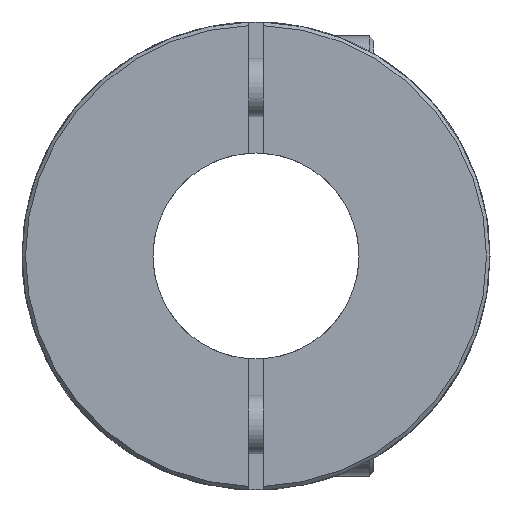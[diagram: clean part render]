
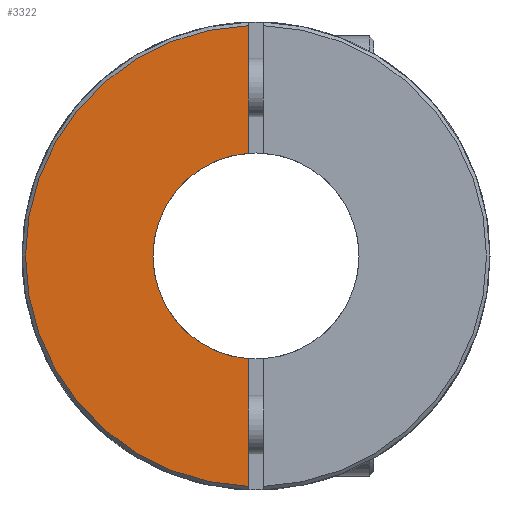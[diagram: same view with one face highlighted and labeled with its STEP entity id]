
A CAD part, front view. The second image highlights one B-rep face of the part: STEP entity #3322.
In plain terms, the highlighted planar face has unit normal (0, -1, 0).
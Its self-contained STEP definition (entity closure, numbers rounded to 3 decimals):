
#1=DIRECTION('',(0.,0.,-1.));
#2=VECTOR('',#1,8.67);
#3=CARTESIAN_POINT('',(-0.5,-22.25,15.652));
#4=LINE('',#3,#2);
#5=DIRECTION('',(0.,0.,-1.));
#6=VECTOR('',#5,8.67);
#7=CARTESIAN_POINT('',(-0.5,-22.25,-6.982));
#8=LINE('',#7,#6);
#72=CARTESIAN_POINT('',(0.,-22.25,0.));
#73=DIRECTION('',(0.,1.,0.));
#74=DIRECTION('',(-0.071,0.,-0.997));
#75=AXIS2_PLACEMENT_3D('',#72,#73,#74);
#2481=CARTESIAN_POINT('',(0.,-22.25,0.));
#2482=DIRECTION('',(0.,-1.,0.));
#2483=DIRECTION('',(-0.032,0.,0.999));
#2484=AXIS2_PLACEMENT_3D('',#2481,#2482,#2483);
#3044=CARTESIAN_POINT('',(-0.5,-22.25,15.652));
#3045=CARTESIAN_POINT('',(-0.5,-22.25,6.982));
#3046=VERTEX_POINT('',#3044);
#3047=VERTEX_POINT('',#3045);
#3048=CARTESIAN_POINT('',(-0.5,-22.25,-6.982));
#3049=CARTESIAN_POINT('',(-0.5,-22.25,-15.652));
#3050=VERTEX_POINT('',#3048);
#3051=VERTEX_POINT('',#3049);
#3307=CARTESIAN_POINT('',(0.,-22.25,0.));
#3308=DIRECTION('',(0.,1.,0.));
#3309=DIRECTION('',(1.,0.,0.));
#3310=AXIS2_PLACEMENT_3D('',#3307,#3308,#3309);
#3311=PLANE('',#3310);
#3313=ORIENTED_EDGE('',*,*,#3312,.T.);
#3315=ORIENTED_EDGE('',*,*,#3314,.F.);
#3317=ORIENTED_EDGE('',*,*,#3316,.T.);
#3319=ORIENTED_EDGE('',*,*,#3318,.F.);
#3320=EDGE_LOOP('',(#3313,#3315,#3317,#3319));
#3321=FACE_OUTER_BOUND('',#3320,.F.);
#3322=ADVANCED_FACE('',(#3321),#3311,.F.);
#76=CIRCLE('',#75,7.);
#2485=CIRCLE('',#2484,15.66);
#3312=EDGE_CURVE('',#3046,#3047,#4,.T.);
#3314=EDGE_CURVE('',#3050,#3047,#76,.T.);
#3316=EDGE_CURVE('',#3050,#3051,#8,.T.);
#3318=EDGE_CURVE('',#3046,#3051,#2485,.T.);
